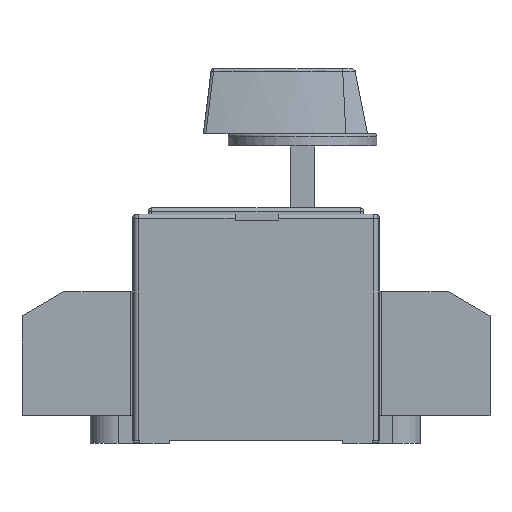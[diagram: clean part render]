
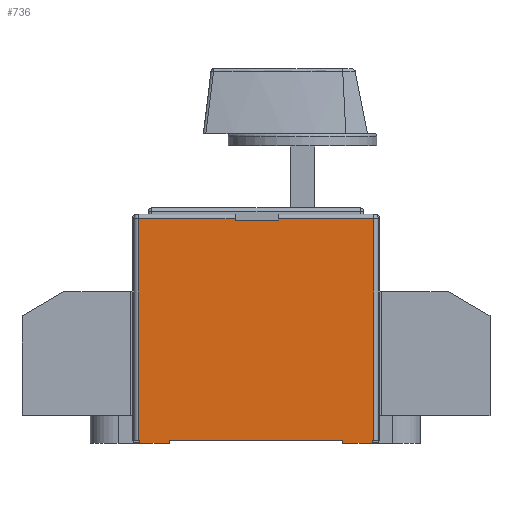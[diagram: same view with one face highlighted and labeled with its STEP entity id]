
A CAD part, left-side view. The second image highlights one B-rep face of the part: STEP entity #736.
In plain terms, the highlighted planar face has unit normal (-1, 0, 0).
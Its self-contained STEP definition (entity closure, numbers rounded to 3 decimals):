
#736=ADVANCED_FACE('',(#1582),#1247,.F.);
#1247=PLANE('',#9714);
#1582=FACE_OUTER_BOUND('',#2063,.T.);
#2063=EDGE_LOOP('',(#3071,#3072,#3073,#3074,#3075,#3076,#3077,#3078,#3079,
#3080,#3081,#3082,#3083,#3084,#3085,#3086));
#3071=ORIENTED_EDGE('',*,*,#6555,.F.);
#3072=ORIENTED_EDGE('',*,*,#6556,.T.);
#3073=ORIENTED_EDGE('',*,*,#6557,.T.);
#3074=ORIENTED_EDGE('',*,*,#6558,.F.);
#3075=ORIENTED_EDGE('',*,*,#6559,.T.);
#3076=ORIENTED_EDGE('',*,*,#6560,.T.);
#3077=ORIENTED_EDGE('',*,*,#6553,.T.);
#3078=ORIENTED_EDGE('',*,*,#6406,.T.);
#3079=ORIENTED_EDGE('',*,*,#6550,.F.);
#3080=ORIENTED_EDGE('',*,*,#6561,.F.);
#3081=ORIENTED_EDGE('',*,*,#6562,.T.);
#3082=ORIENTED_EDGE('',*,*,#6249,.T.);
#3083=ORIENTED_EDGE('',*,*,#6563,.F.);
#3084=ORIENTED_EDGE('',*,*,#6564,.F.);
#3085=ORIENTED_EDGE('',*,*,#6565,.T.);
#3086=ORIENTED_EDGE('',*,*,#6422,.T.);
#5364=VERTEX_POINT('',#13299);
#5365=VERTEX_POINT('',#13301);
#5513=VERTEX_POINT('',#13626);
#5514=VERTEX_POINT('',#13628);
#5525=VERTEX_POINT('',#13654);
#5528=VERTEX_POINT('',#13660);
#5608=VERTEX_POINT('',#13906);
#5610=VERTEX_POINT('',#13914);
#5611=VERTEX_POINT('',#13918);
#5612=VERTEX_POINT('',#13920);
#5613=VERTEX_POINT('',#13922);
#5614=VERTEX_POINT('',#13924);
#5615=VERTEX_POINT('',#13926);
#5616=VERTEX_POINT('',#13929);
#5617=VERTEX_POINT('',#13932);
#5618=VERTEX_POINT('',#13934);
#6249=EDGE_CURVE('',#5365,#5364,#7609,.T.);
#6406=EDGE_CURVE('',#5514,#5513,#7733,.T.);
#6422=EDGE_CURVE('',#5525,#5528,#7745,.T.);
#6550=EDGE_CURVE('',#5608,#5513,#7858,.T.);
#6553=EDGE_CURVE('',#5610,#5514,#7861,.T.);
#6555=EDGE_CURVE('',#5611,#5528,#7862,.T.);
#6556=EDGE_CURVE('',#5611,#5612,#7863,.T.);
#6557=EDGE_CURVE('',#5612,#5613,#7864,.T.);
#6558=EDGE_CURVE('',#5614,#5613,#7865,.T.);
#6559=EDGE_CURVE('',#5614,#5615,#7866,.T.);
#6560=EDGE_CURVE('',#5615,#5610,#7867,.T.);
#6561=EDGE_CURVE('',#5616,#5608,#7868,.T.);
#6562=EDGE_CURVE('',#5616,#5365,#7869,.T.);
#6563=EDGE_CURVE('',#5617,#5364,#7870,.T.);
#6564=EDGE_CURVE('',#5618,#5617,#7871,.T.);
#6565=EDGE_CURVE('',#5618,#5525,#7872,.T.);
#7609=LINE('',#13300,#8639);
#7733=LINE('',#13627,#8763);
#7745=LINE('',#13661,#8775);
#7858=LINE('',#13907,#8888);
#7861=LINE('',#13913,#8891);
#7862=LINE('',#13917,#8892);
#7863=LINE('',#13919,#8893);
#7864=LINE('',#13921,#8894);
#7865=LINE('',#13923,#8895);
#7866=LINE('',#13925,#8896);
#7867=LINE('',#13927,#8897);
#7868=LINE('',#13928,#8898);
#7869=LINE('',#13930,#8899);
#7870=LINE('',#13931,#8900);
#7871=LINE('',#13933,#8901);
#7872=LINE('',#13935,#8902);
#8639=VECTOR('',#10547,1.);
#8763=VECTOR('',#10779,1.);
#8775=VECTOR('',#10805,1.);
#8888=VECTOR('',#11024,1.);
#8891=VECTOR('',#11031,1.);
#8892=VECTOR('',#11036,1.);
#8893=VECTOR('',#11037,1.);
#8894=VECTOR('',#11038,1.);
#8895=VECTOR('',#11039,1.);
#8896=VECTOR('',#11040,1.);
#8897=VECTOR('',#11041,1.);
#8898=VECTOR('',#11042,1.);
#8899=VECTOR('',#11043,1.);
#8900=VECTOR('',#11044,1.);
#8901=VECTOR('',#11045,1.);
#8902=VECTOR('',#11046,1.);
#9714=AXIS2_PLACEMENT_3D('',#13936,#11047,#11048);
#10547=DIRECTION('',(0.,-1.,0.));
#10779=DIRECTION('',(0.,-1.,0.));
#10805=DIRECTION('',(0.,-1.,0.));
#11024=DIRECTION('',(0.,0.,1.));
#11031=DIRECTION('',(0.,0.,-1.));
#11036=DIRECTION('',(0.,0.,-1.));
#11037=DIRECTION('',(0.,1.,0.));
#11038=DIRECTION('',(0.,0.,-1.));
#11039=DIRECTION('',(0.,-1.,0.));
#11040=DIRECTION('',(0.,0.,1.));
#11041=DIRECTION('',(0.,1.,0.));
#11042=DIRECTION('',(0.,1.,0.));
#11043=DIRECTION('',(0.,0.,1.));
#11044=DIRECTION('',(0.,0.,1.));
#11045=DIRECTION('',(0.,1.,0.));
#11046=DIRECTION('',(0.,0.,1.));
#11047=DIRECTION('',(1.,0.,0.));
#11048=DIRECTION('',(0.,0.,-1.));
#13299=CARTESIAN_POINT('',(-69.,-52.735,-3.9));
#13300=CARTESIAN_POINT('',(-69.,-62.235,-3.9));
#13301=CARTESIAN_POINT('',(-69.,3.265,-3.9));
#13626=CARTESIAN_POINT('',(-69.,12.765,-3.9));
#13627=CARTESIAN_POINT('',(-69.,-62.235,-3.9));
#13628=CARTESIAN_POINT('',(-69.,13.265,-3.9));
#13654=CARTESIAN_POINT('',(-69.,-62.235,-3.9));
#13660=CARTESIAN_POINT('',(-69.,-62.735,-3.9));
#13661=CARTESIAN_POINT('',(-69.,-62.235,-3.9));
#13906=CARTESIAN_POINT('',(-69.,12.765,-4.9));
#13907=CARTESIAN_POINT('',(-69.,12.765,-5.9));
#13913=CARTESIAN_POINT('',(-69.,13.265,69.1));
#13914=CARTESIAN_POINT('',(-69.,13.265,67.6));
#13917=CARTESIAN_POINT('',(-69.,-62.735,69.1));
#13918=CARTESIAN_POINT('',(-69.,-62.735,67.6));
#13919=CARTESIAN_POINT('',(-69.,13.265,67.6));
#13920=CARTESIAN_POINT('',(-69.,-31.985,67.6));
#13921=CARTESIAN_POINT('',(-69.,-31.985,69.1));
#13922=CARTESIAN_POINT('',(-69.,-31.985,67.));
#13923=CARTESIAN_POINT('',(-69.,12.765,67.));
#13924=CARTESIAN_POINT('',(-69.,-17.985,67.));
#13925=CARTESIAN_POINT('',(-69.,-17.985,69.1));
#13926=CARTESIAN_POINT('',(-69.,-17.985,67.6));
#13927=CARTESIAN_POINT('',(-69.,13.265,67.6));
#13928=CARTESIAN_POINT('',(-69.,3.265,-4.9));
#13929=CARTESIAN_POINT('',(-69.,3.265,-4.9));
#13930=CARTESIAN_POINT('',(-69.,3.265,-5.9));
#13931=CARTESIAN_POINT('',(-69.,-52.735,-5.9));
#13932=CARTESIAN_POINT('',(-69.,-52.735,-4.9));
#13933=CARTESIAN_POINT('',(-69.,-62.235,-4.9));
#13934=CARTESIAN_POINT('',(-69.,-62.235,-4.9));
#13935=CARTESIAN_POINT('',(-69.,-62.235,-5.9));
#13936=CARTESIAN_POINT('',(-69.,-62.235,69.1));
